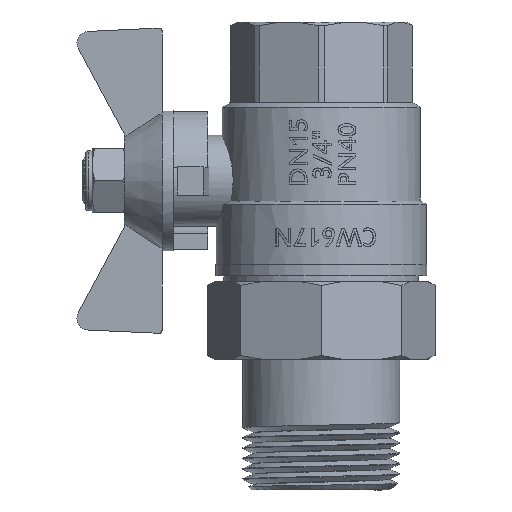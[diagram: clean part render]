
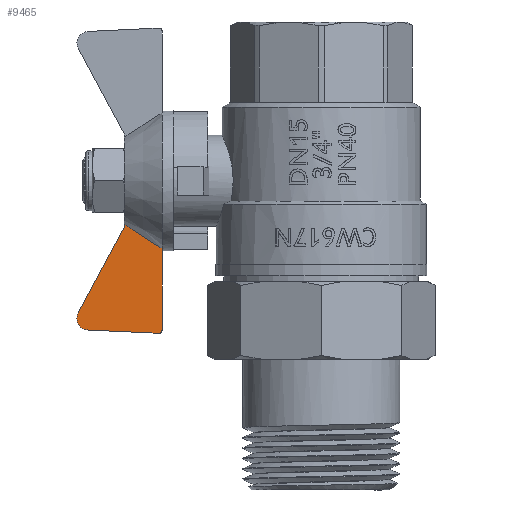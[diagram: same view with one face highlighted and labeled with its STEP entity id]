
A CAD part, left-side view. The second image highlights one B-rep face of the part: STEP entity #9465.
In plain terms, the highlighted planar face has unit normal (-1, 0, 0).
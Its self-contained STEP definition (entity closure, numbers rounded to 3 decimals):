
#102=(
BOUNDED_CURVE()
B_SPLINE_CURVE(2,(#26502,#26503,#26504),.UNSPECIFIED.,.F.,.F.)
B_SPLINE_CURVE_WITH_KNOTS((3,3),(0.,0.783),.UNSPECIFIED.)
CURVE()
GEOMETRIC_REPRESENTATION_ITEM()
RATIONAL_B_SPLINE_CURVE((1.,1.023,1.))
REPRESENTATION_ITEM('')
);
#326=PLANE('',#10109);
#1177=LINE('',#26487,#1828);
#1183=LINE('',#26506,#1834);
#1184=LINE('',#26508,#1835);
#1185=LINE('',#26512,#1836);
#1828=VECTOR('',#11969,10.);
#1834=VECTOR('',#11981,10.);
#1835=VECTOR('',#11982,10.);
#1836=VECTOR('',#11985,10.);
#2815=FACE_OUTER_BOUND('',#3410,.T.);
#3410=EDGE_LOOP('',(#8722,#8723,#8724,#8725,#8726,#8727,#8728));
#3721=CIRCLE('',#10110,2.);
#3722=CIRCLE('',#10111,0.5);
#4645=VERTEX_POINT('',#26483);
#4647=VERTEX_POINT('',#26486);
#4653=VERTEX_POINT('',#26501);
#4654=VERTEX_POINT('',#26505);
#4655=VERTEX_POINT('',#26507);
#4656=VERTEX_POINT('',#26509);
#4657=VERTEX_POINT('',#26511);
#6032=EDGE_CURVE('',#4647,#4645,#1177,.T.);
#6039=EDGE_CURVE('',#4653,#4645,#102,.T.);
#6040=EDGE_CURVE('',#4653,#4654,#1183,.T.);
#6041=EDGE_CURVE('',#4654,#4655,#1184,.T.);
#6042=EDGE_CURVE('',#4655,#4656,#3721,.T.);
#6043=EDGE_CURVE('',#4656,#4657,#1185,.T.);
#6044=EDGE_CURVE('',#4657,#4647,#3722,.T.);
#8722=ORIENTED_EDGE('',*,*,#6039,.F.);
#8723=ORIENTED_EDGE('',*,*,#6040,.T.);
#8724=ORIENTED_EDGE('',*,*,#6041,.T.);
#8725=ORIENTED_EDGE('',*,*,#6042,.T.);
#8726=ORIENTED_EDGE('',*,*,#6043,.T.);
#8727=ORIENTED_EDGE('',*,*,#6044,.T.);
#8728=ORIENTED_EDGE('',*,*,#6032,.T.);
#9465=ADVANCED_FACE('',(#2815),#326,.F.);
#10109=AXIS2_PLACEMENT_3D('',#26500,#11979,#11980);
#10110=AXIS2_PLACEMENT_3D('',#26510,#11983,#11984);
#10111=AXIS2_PLACEMENT_3D('',#26513,#11986,#11987);
#11969=DIRECTION('',(0.,0.,1.));
#11979=DIRECTION('center_axis',(1.,0.,0.));
#11980=DIRECTION('ref_axis',(0.,0.,-1.));
#11981=DIRECTION('',(0.,0.,-1.));
#11982=DIRECTION('',(0.,0.472,-0.881));
#11983=DIRECTION('center_axis',(-1.,0.,0.));
#11984=DIRECTION('ref_axis',(0.,0.047,-0.999));
#11985=DIRECTION('',(0.,-0.999,-0.047));
#11986=DIRECTION('center_axis',(-1.,0.,0.));
#11987=DIRECTION('ref_axis',(0.,-1.,0.));
#26483=CARTESIAN_POINT('',(-3.,27.625,-8.257));
#26486=CARTESIAN_POINT('',(-3.,27.625,-22.448));
#26487=CARTESIAN_POINT('',(-3.,27.625,29.504));
#26500=CARTESIAN_POINT('Origin',(-3.,32.962,3.528));
#26501=CARTESIAN_POINT('',(-3.,34.207,-4.008));
#26502=CARTESIAN_POINT('Ctrl Pts',(-3.,34.207,-4.008));
#26503=CARTESIAN_POINT('Ctrl Pts',(-3.,31.64,-5.708));
#26504=CARTESIAN_POINT('Ctrl Pts',(-3.,27.625,-8.257));
#26505=CARTESIAN_POINT('',(-3.,34.207,-4.583));
#26506=CARTESIAN_POINT('',(-3.,34.207,-4.583));
#26507=CARTESIAN_POINT('',(-3.,42.161,-19.421));
#26508=CARTESIAN_POINT('',(-3.,42.161,-19.421));
#26509=CARTESIAN_POINT('',(-3.,40.494,-22.369));
#26510=CARTESIAN_POINT('Origin',(-3.,40.401,-20.371));
#26511=CARTESIAN_POINT('',(-3.,28.149,-22.948));
#26512=CARTESIAN_POINT('',(-3.,28.149,-22.948));
#26513=CARTESIAN_POINT('Origin',(-3.,28.125,-22.448));
